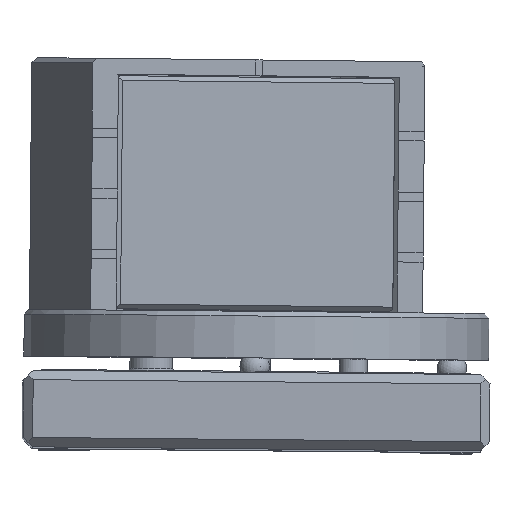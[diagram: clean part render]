
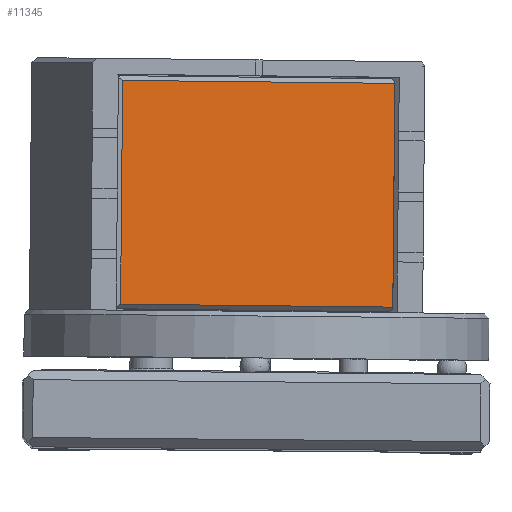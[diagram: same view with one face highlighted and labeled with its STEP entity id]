
A CAD part, front view. The second image highlights one B-rep face of the part: STEP entity #11345.
In plain terms, the highlighted planar face has unit normal (0.702, -0.712, -0.005).
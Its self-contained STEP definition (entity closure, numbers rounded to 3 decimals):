
#732=PLANE('',#13457);
#1253=FACE_OUTER_BOUND('',#1846,.T.);
#1846=EDGE_LOOP('',(#2995,#2996,#2997,#2998));
#2995=ORIENTED_EDGE('',*,*,#6327,.T.);
#2996=ORIENTED_EDGE('',*,*,#6328,.T.);
#2997=ORIENTED_EDGE('',*,*,#6329,.T.);
#2998=ORIENTED_EDGE('',*,*,#6330,.T.);
#6327=EDGE_CURVE('',#12329,#12330,#8012,.T.);
#6328=EDGE_CURVE('',#12330,#12331,#8013,.T.);
#6329=EDGE_CURVE('',#12331,#12332,#8014,.T.);
#6330=EDGE_CURVE('',#12332,#12329,#8015,.T.);
#8012=LINE('',#17336,#9379);
#8013=LINE('',#17339,#9380);
#8014=LINE('',#17341,#9381);
#8015=LINE('',#17343,#9382);
#9379=VECTOR('',#14354,1.);
#9380=VECTOR('',#14355,1.);
#9381=VECTOR('',#14356,1.);
#9382=VECTOR('',#14357,1.);
#11345=ADVANCED_FACE('',(#1253),#732,.T.);
#12329=VERTEX_POINT('',#17337);
#12330=VERTEX_POINT('',#17338);
#12331=VERTEX_POINT('',#17340);
#12332=VERTEX_POINT('',#17342);
#13457=AXIS2_PLACEMENT_3D('',#17344,#14358,#14359);
#14354=DIRECTION('',(0.009,0.002,1.));
#14355=DIRECTION('',(-0.712,-0.702,0.008));
#14356=DIRECTION('',(-0.009,-0.002,-1.));
#14357=DIRECTION('',(0.712,0.702,-0.008));
#14358=DIRECTION('',(0.702,-0.712,-0.005));
#14359=DIRECTION('',(-0.712,-0.702,0.008));
#17336=CARTESIAN_POINT('',(76.665,4.492,-14.024));
#17337=CARTESIAN_POINT('',(76.553,4.473,-26.024));
#17338=CARTESIAN_POINT('',(76.778,4.511,-2.025));
#17339=CARTESIAN_POINT('',(62.179,-9.88,-1.866));
#17340=CARTESIAN_POINT('',(47.58,-24.272,-1.707));
#17341=CARTESIAN_POINT('',(47.468,-24.29,-13.706));
#17342=CARTESIAN_POINT('',(47.356,-24.309,-25.706));
#17343=CARTESIAN_POINT('',(61.954,-9.918,-25.865));
#17344=CARTESIAN_POINT('',(62.067,-9.899,-13.865));
